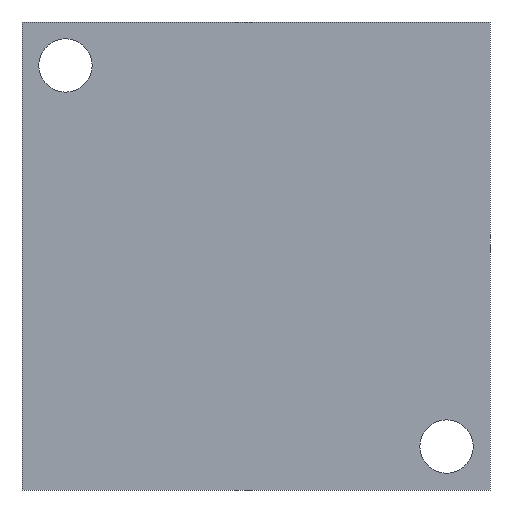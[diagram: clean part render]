
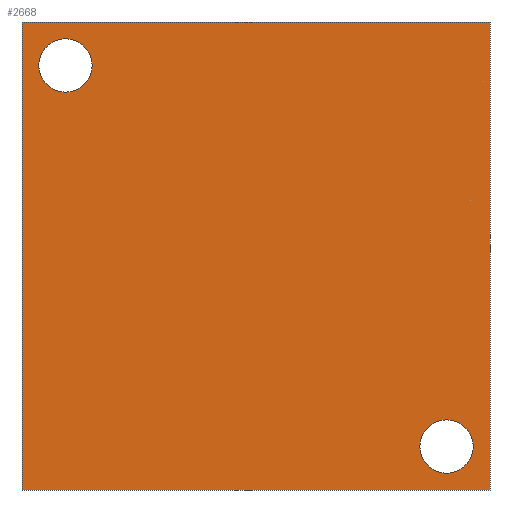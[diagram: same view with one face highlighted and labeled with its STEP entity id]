
A CAD part, front view. The second image highlights one B-rep face of the part: STEP entity #2668.
In plain terms, the highlighted planar face has unit normal (0, -1, 0).
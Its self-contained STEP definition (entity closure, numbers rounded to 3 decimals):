
#752=DIRECTION('',(0.,0.,-1.));
#753=VECTOR('',#752,28.);
#754=CARTESIAN_POINT('',(-14.,0.,14.));
#755=LINE('',#754,#753);
#759=DIRECTION('',(-1.,0.,0.));
#760=VECTOR('',#759,28.);
#761=CARTESIAN_POINT('',(14.,0.,14.));
#762=LINE('',#761,#760);
#766=DIRECTION('',(0.,0.,1.));
#767=VECTOR('',#766,28.);
#768=CARTESIAN_POINT('',(14.,0.,-14.));
#769=LINE('',#768,#767);
#773=DIRECTION('',(1.,0.,0.));
#774=VECTOR('',#773,28.);
#775=CARTESIAN_POINT('',(-14.,0.,-14.));
#776=LINE('',#775,#774);
#780=CARTESIAN_POINT('',(-11.4,0.,11.4));
#781=DIRECTION('',(0.,1.,0.));
#782=DIRECTION('',(0.,0.,-1.));
#783=AXIS2_PLACEMENT_3D('',#780,#781,#782);
#788=CARTESIAN_POINT('',(-11.4,0.,11.4));
#789=DIRECTION('',(0.,1.,0.));
#790=DIRECTION('',(0.,0.,1.));
#791=AXIS2_PLACEMENT_3D('',#788,#789,#790);
#796=CARTESIAN_POINT('',(11.4,0.,-11.4));
#797=DIRECTION('',(0.,1.,0.));
#798=DIRECTION('',(0.,0.,-1.));
#799=AXIS2_PLACEMENT_3D('',#796,#797,#798);
#804=CARTESIAN_POINT('',(11.4,0.,-11.4));
#805=DIRECTION('',(0.,1.,0.));
#806=DIRECTION('',(0.,0.,1.));
#807=AXIS2_PLACEMENT_3D('',#804,#805,#806);
#2019=CARTESIAN_POINT('',(14.,0.,-14.));
#2021=VERTEX_POINT('',#2019);
#2123=CARTESIAN_POINT('',(14.,0.,14.));
#2124=VERTEX_POINT('',#2123);
#2170=CARTESIAN_POINT('',(-11.4,0.,9.8));
#2172=VERTEX_POINT('',#2170);
#2186=CARTESIAN_POINT('',(-14.,0.,14.));
#2187=VERTEX_POINT('',#2186);
#2224=CARTESIAN_POINT('',(-11.4,0.,13.));
#2225=VERTEX_POINT('',#2224);
#2238=CARTESIAN_POINT('',(-14.,0.,-14.));
#2239=VERTEX_POINT('',#2238);
#2248=CARTESIAN_POINT('',(11.4,0.,-13.));
#2249=CARTESIAN_POINT('',(11.4,0.,-9.8));
#2250=VERTEX_POINT('',#2248);
#2251=VERTEX_POINT('',#2249);
#2642=CARTESIAN_POINT('',(0.,0.,0.));
#2643=DIRECTION('',(0.,-1.,0.));
#2644=DIRECTION('',(0.,0.,-1.));
#2645=AXIS2_PLACEMENT_3D('',#2642,#2643,#2644);
#2646=PLANE('',#2645);
#2647=ORIENTED_EDGE('',*,*,#2625,.F.);
#2649=ORIENTED_EDGE('',*,*,#2648,.F.);
#2651=ORIENTED_EDGE('',*,*,#2650,.F.);
#2653=ORIENTED_EDGE('',*,*,#2652,.F.);
#2654=EDGE_LOOP('',(#2647,#2649,#2651,#2653));
#2655=FACE_OUTER_BOUND('',#2654,.F.);
#2657=ORIENTED_EDGE('',*,*,#2656,.F.);
#2659=ORIENTED_EDGE('',*,*,#2658,.F.);
#2660=EDGE_LOOP('',(#2657,#2659));
#2661=FACE_BOUND('',#2660,.F.);
#2663=ORIENTED_EDGE('',*,*,#2662,.F.);
#2665=ORIENTED_EDGE('',*,*,#2664,.F.);
#2666=EDGE_LOOP('',(#2663,#2665));
#2667=FACE_BOUND('',#2666,.F.);
#784=CIRCLE('',#783,1.6);
#792=CIRCLE('',#791,1.6);
#800=CIRCLE('',#799,1.6);
#808=CIRCLE('',#807,1.6);
#2625=EDGE_CURVE('',#2187,#2239,#755,.T.);
#2648=EDGE_CURVE('',#2124,#2187,#762,.T.);
#2650=EDGE_CURVE('',#2021,#2124,#769,.T.);
#2652=EDGE_CURVE('',#2239,#2021,#776,.T.);
#2656=EDGE_CURVE('',#2172,#2225,#784,.T.);
#2658=EDGE_CURVE('',#2225,#2172,#792,.T.);
#2662=EDGE_CURVE('',#2250,#2251,#800,.T.);
#2664=EDGE_CURVE('',#2251,#2250,#808,.T.);
#2668=ADVANCED_FACE('',(#2655,#2661,#2667),#2646,.T.);
